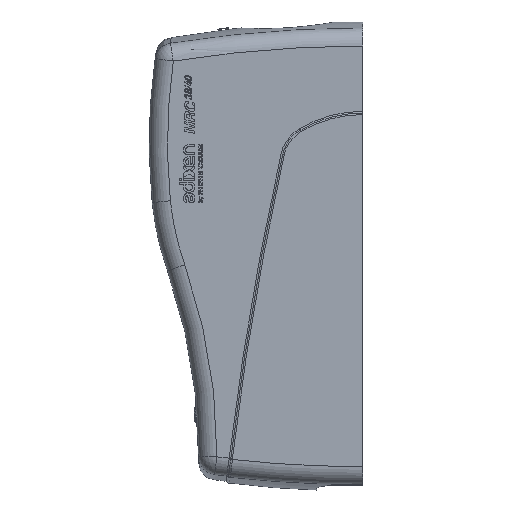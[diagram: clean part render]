
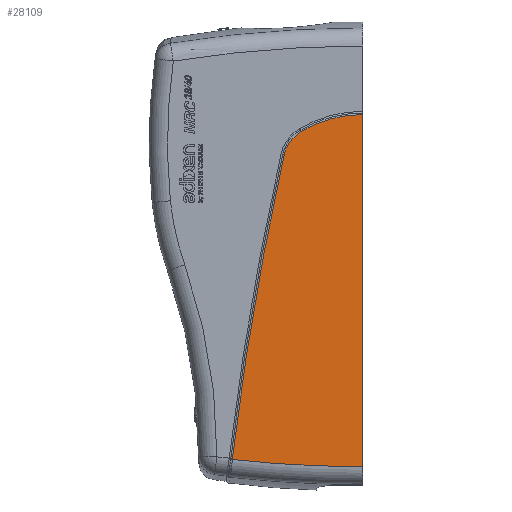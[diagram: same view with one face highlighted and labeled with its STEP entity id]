
A CAD part, left-side view. The second image highlights one B-rep face of the part: STEP entity #28109.
In plain terms, the highlighted planar face has unit normal (-1, 0, 0).
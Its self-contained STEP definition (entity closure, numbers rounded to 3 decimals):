
#3268=CARTESIAN_POINT('',(-125.,213.61,-715.098));
#3269=CARTESIAN_POINT('',(-125.,213.629,-715.259));
#3270=CARTESIAN_POINT('',(-125.,213.666,
-715.586));
#3271=CARTESIAN_POINT('',(-125.,213.718,
-716.09));
#3272=CARTESIAN_POINT('',(-125.,213.751,
-716.434));
#3273=CARTESIAN_POINT('',(-125.,213.766,
-716.609));
#3275=CARTESIAN_POINT('',(-125.,-4749.658,-1305.863));
#3276=DIRECTION('',(-1.,0.,0.));
#3277=DIRECTION('',(0.,0.976,0.218));
#3278=AXIS2_PLACEMENT_3D('',#3275,#3276,#3277);
#3280=CARTESIAN_POINT('',(-125.,71.712,-229.761));
#3281=DIRECTION('',(-1.,0.,0.));
#3282=DIRECTION('',(0.,0.512,0.859));
#3283=AXIS2_PLACEMENT_3D('',#3280,#3281,#3282);
#3285=CARTESIAN_POINT('',(-125.,0.,-350.));
#3286=DIRECTION('',(-1.,0.,0.));
#3287=DIRECTION('',(0.,0.,1.));
#3288=AXIS2_PLACEMENT_3D('',#3285,#3286,#3287);
#3290=DIRECTION('',(0.,0.,-1.));
#3291=VECTOR('',#3290,576.606);
#3292=CARTESIAN_POINT('',(-125.,0.,-151.693));
#3293=LINE('',#3292,#3291);
#3294=CARTESIAN_POINT('',(-125.,0.,1232.));
#3295=DIRECTION('',(1.,0.,0.));
#3296=DIRECTION('',(0.,0.,-1.));
#3297=AXIS2_PLACEMENT_3D('',#3294,#3295,#3296);
#8540=CARTESIAN_POINT('',(-125.,213.766,
-716.609));
#22705=CARTESIAN_POINT('',(-125.,0.,-728.299));
#22707=VERTEX_POINT('',#22705);
#22748=VERTEX_POINT('',#8540);
#22752=VERTEX_POINT('',#3268);
#22754=CARTESIAN_POINT('',(-125.,128.614,-217.06));
#22755=VERTEX_POINT('',#22754);
#22758=CARTESIAN_POINT('',(-125.,101.576,-179.687));
#22759=VERTEX_POINT('',#22758);
#22762=CARTESIAN_POINT('',(-125.,0.,-151.697));
#22763=VERTEX_POINT('',#22762);
#28091=CARTESIAN_POINT('',(-125.,0.,0.));
#28092=DIRECTION('',(1.,0.,0.));
#28093=DIRECTION('',(0.,0.,-1.));
#28094=AXIS2_PLACEMENT_3D('',#28091,#28092,#28093);
#28095=PLANE('',#28094);
#28096=ORIENTED_EDGE('',*,*,#28081,.F.);
#28098=ORIENTED_EDGE('',*,*,#28097,.F.);
#28100=ORIENTED_EDGE('',*,*,#28099,.F.);
#28102=ORIENTED_EDGE('',*,*,#28101,.F.);
#28104=ORIENTED_EDGE('',*,*,#28103,.T.);
#28106=ORIENTED_EDGE('',*,*,#28105,.T.);
#28107=EDGE_LOOP('',(#28096,#28098,#28100,#28102,#28104,#28106));
#28108=FACE_OUTER_BOUND('',#28107,.F.);
#28109=ADVANCED_FACE('',(#28108),#28095,.F.);
#3274=B_SPLINE_CURVE_WITH_KNOTS('',3,(#3268,#3269,#3270,#3271,#3272,#3273),
.UNSPECIFIED.,.F.,.F.,(4,1,1,4),(0.,0.333,0.667,1.),
.UNSPECIFIED.);
#3279=CIRCLE('',#3278,4998.303);
#3284=CIRCLE('',#3283,58.303);
#3289=CIRCLE('',#3288,198.303);
#3298=CIRCLE('',#3297,1960.299);
#28081=EDGE_CURVE('',#22752,#22748,#3274,.T.);
#28097=EDGE_CURVE('',#22755,#22752,#3279,.T.);
#28099=EDGE_CURVE('',#22759,#22755,#3284,.T.);
#28101=EDGE_CURVE('',#22763,#22759,#3289,.T.);
#28103=EDGE_CURVE('',#22763,#22707,#3293,.T.);
#28105=EDGE_CURVE('',#22707,#22748,#3298,.T.);
